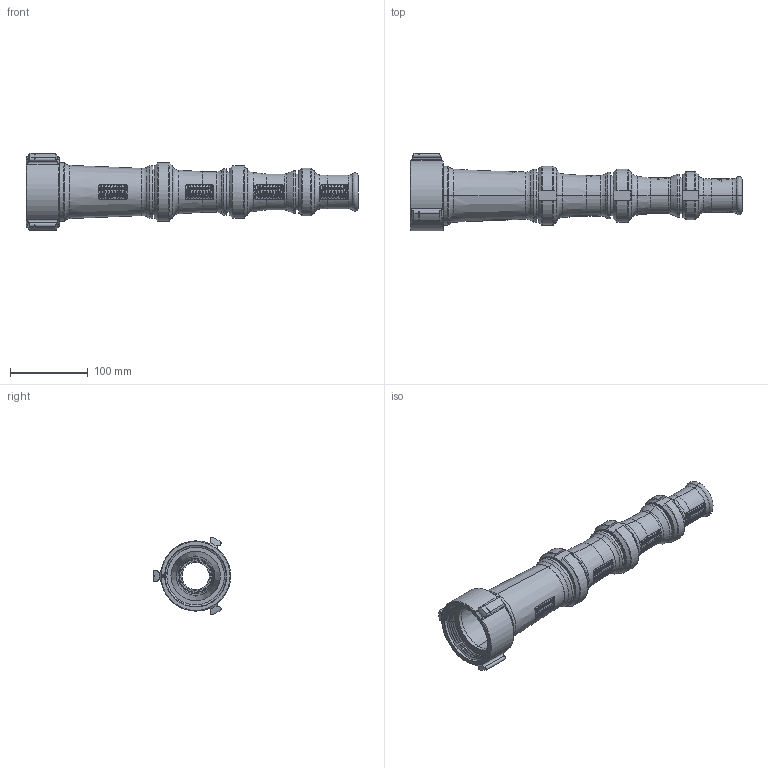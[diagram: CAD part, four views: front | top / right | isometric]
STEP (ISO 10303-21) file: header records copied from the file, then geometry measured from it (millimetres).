
FILE_DESCRIPTION (( 'STEP AP203' ), '1' );
FILE_NAME ('MST-4NJ.step', '2014-05-13T19:41:45', ( 'user' ), ( '' ), 'SwSTEP 2.0', 'SolidWorks 2012', '' );
FILE_SCHEMA (( 'CONFIG_CONTROL_DESIGN' ));
Products named in the file (1): MST-4NJ
Bounding box: 427.44 x 99.55 x 99.67 mm (x, y, z)
Surface area: 133956.6 mm2 (no closed solid volume)
Topology: 0 solids, 231 shells, 1182 faces, 7785 edges, 6800 vertices
Faces by surface type: plane 359, cylinder 341, bspline 236, cone 202, torus 44
Entity records: 107489 total; most frequent: CARTESIAN_POINT 59653, ORIENTED_EDGE 9434, EDGE_CURVE 7785, DIRECTION 6836, VERTEX_POINT 6800, B_SPLINE_CURVE_WITH_KNOTS 3379, AXIS2_PLACEMENT_3D 2522, VECTOR 1792
